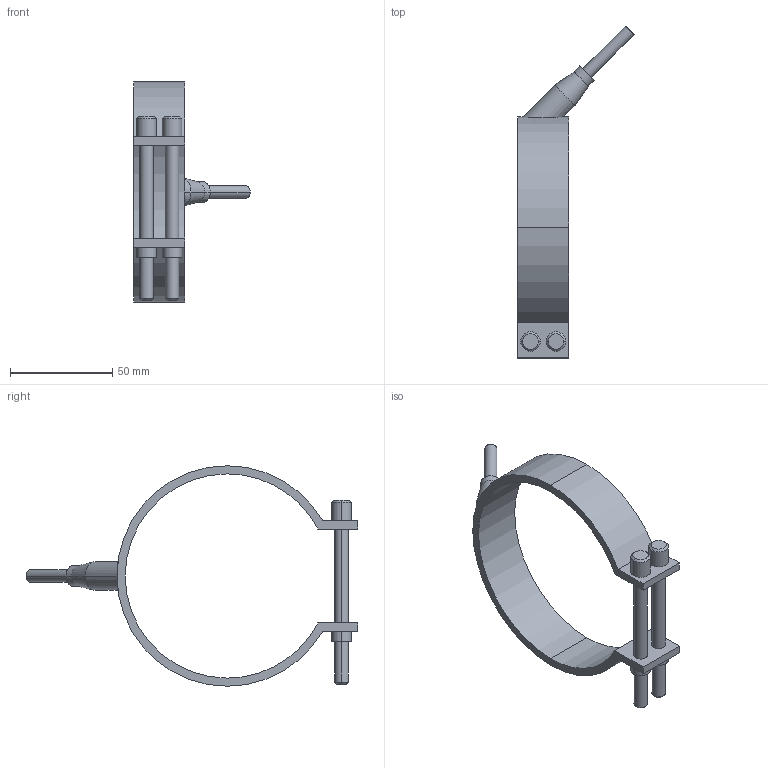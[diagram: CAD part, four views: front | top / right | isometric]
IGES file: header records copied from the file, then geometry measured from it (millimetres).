
Start section: START RECORD GO HERE.
Global section: file name: 29100025.igs; native system: DASSAULT SYSTEMES CATIA V5 R20 - www.3ds.com; preprocessor: CATIA Version 5 Release 20 ; author: Utente; organization: NB04-ASUS; date: 20210329.152201; units: millimetre
Bounding box: 57.05 x 162.55 x 108 mm (x, y, z)
Surface area: 23413.5 mm2 (no closed solid volume)
Topology: 0 solids, 0 shells, 54 faces, 242 edges, 242 vertices
Faces by surface type: revolution 38, plane 16
